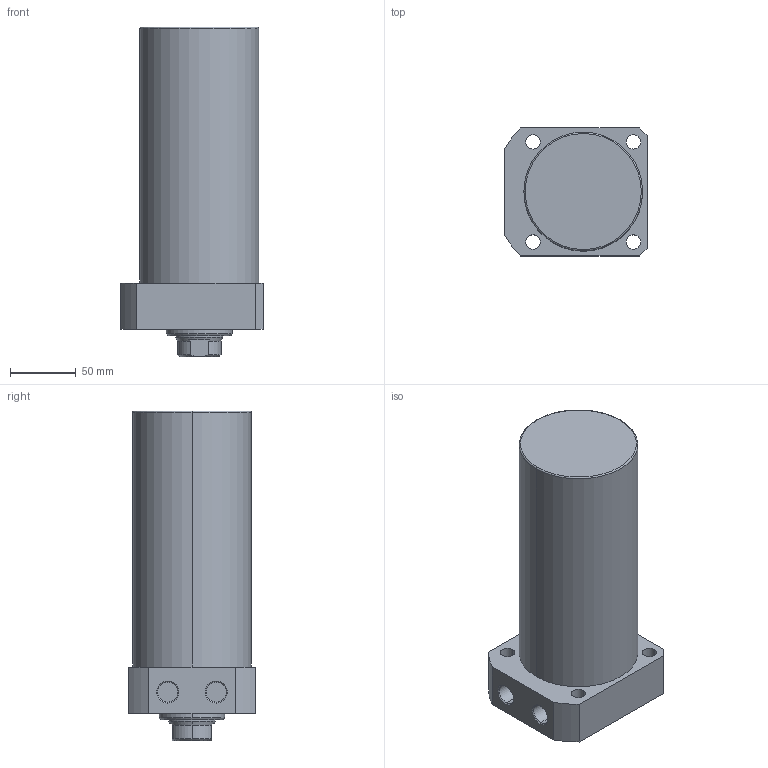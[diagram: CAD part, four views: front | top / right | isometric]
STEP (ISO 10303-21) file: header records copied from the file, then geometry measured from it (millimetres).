
FILE_DESCRIPTION (( 'STEP AP203' ), '1' );
FILE_NAME ('CLLR-090CA-150.STEP', '2019-12-18T06:30:55', ( '' ), ( '' ), 'SwSTEP 2.0', 'SolidWorks 2015', '' );
FILE_SCHEMA (( 'CONFIG_CONTROL_DESIGN' ));
Length unit declared in the file: millimetre
Products named in the file (1): CLLR-090CA-150
Bounding box: 108 x 97 x 250 mm (x, y, z)
Volume: 1583080.1 mm3; surface area: 99939.6 mm2
Topology: 1 solids, 1 shells, 65 faces, 151 edges, 94 vertices
Faces by surface type: cylinder 29, plane 19, cone 15, torus 2
Entity records: 1977 total; most frequent: CARTESIAN_POINT 357, DIRECTION 350, ORIENTED_EDGE 298, EDGE_CURVE 149, AXIS2_PLACEMENT_3D 143, VERTEX_POINT 94, EDGE_LOOP 81, CIRCLE 77
